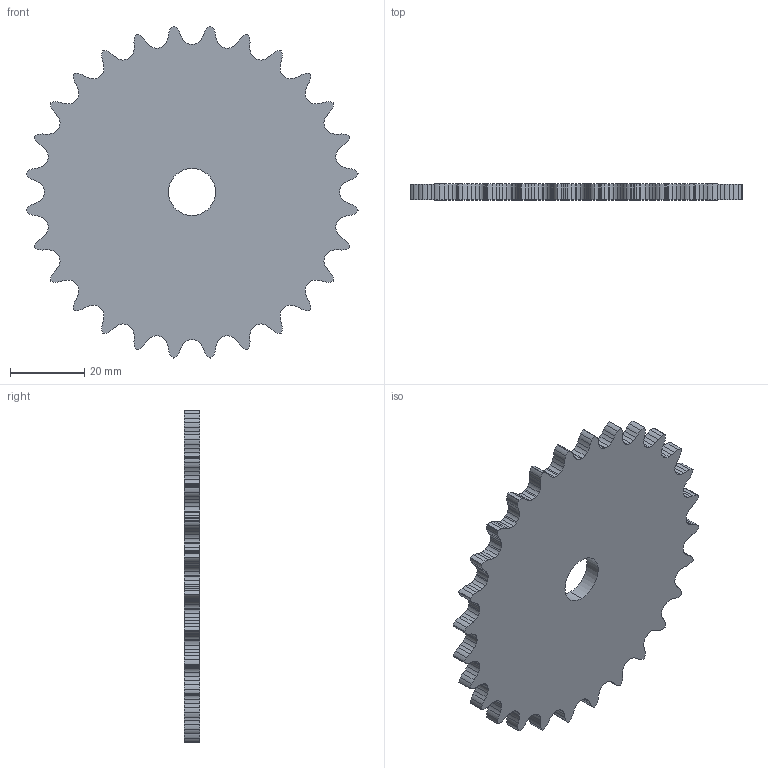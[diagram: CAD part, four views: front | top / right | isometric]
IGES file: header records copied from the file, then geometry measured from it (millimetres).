
Global section: file name: C:\Documents and Settings\Administrator\Desktop\Transfer Temp\rchs-3528.igs; native system: AutoDesk Inventor R2.0 ; preprocessor: AutoDesk Inventor Iges Exporter R2.0; author: No Author specified; organization: No Organization specified; date: 20011229.131612; units: inch
Bounding box: 89.7 x 4.27 x 89.7 mm (x, y, z)
Surface area: 12750.3 mm2 (no closed solid volume)
Topology: 0 solids, 0 shells, 396 faces, 2364 edges, 2364 vertices
Faces by surface type: revolution 338, bspline 58
